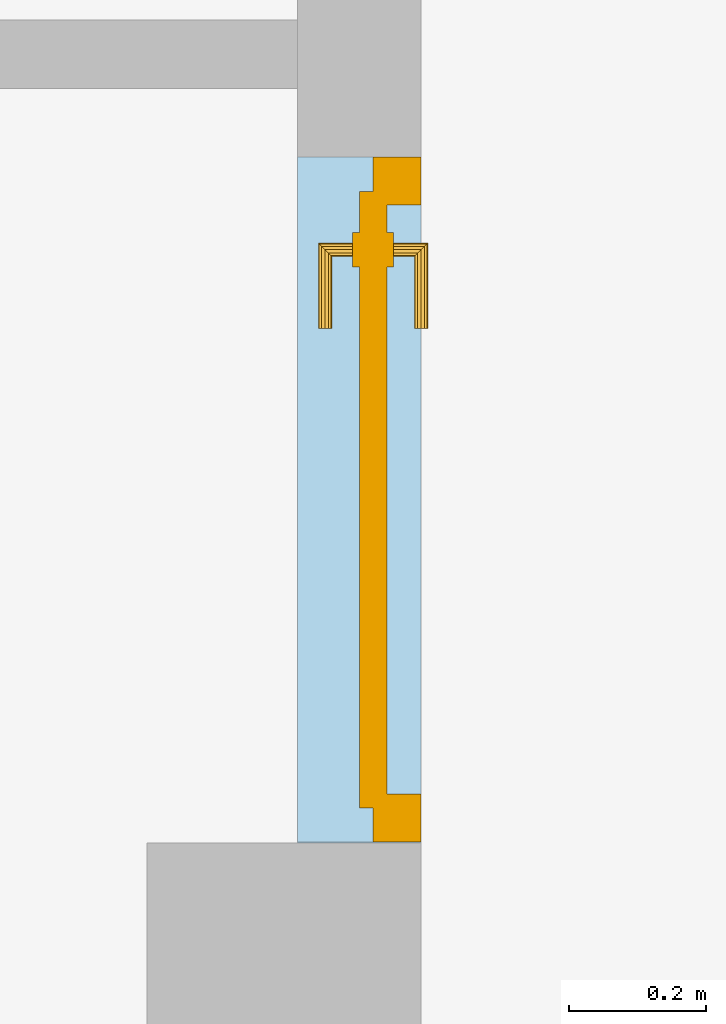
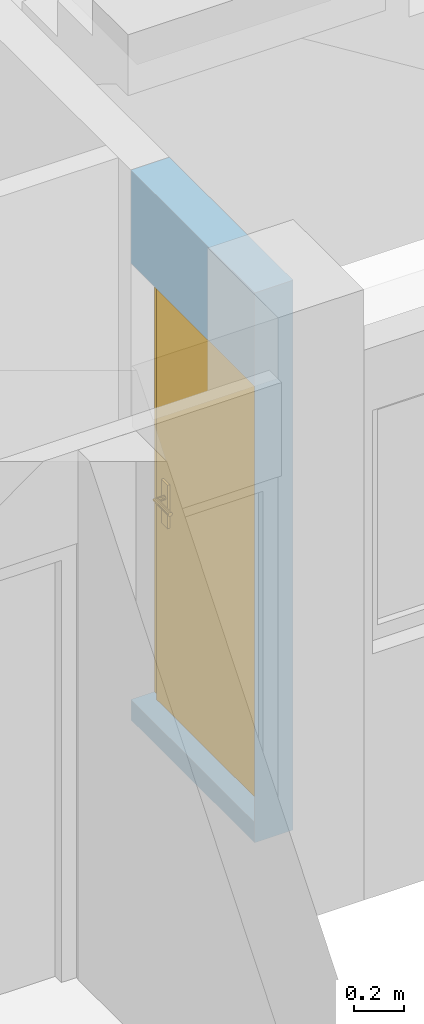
"""IFC4 building model written with IfcOpenShell, lengths in metres."""

from ifc_helpers import new_model, entity, si_unit, converted_unit, derived_unit, frame, frame_2d, origin, origin_with_axes, place, context, subcontext, project, spatial, polyline, rectangle, outline, extrude, faceted_brep, source, transform, mapped, material, layer, layer_set, layer_usage, element, fill, save


model = new_model("IFC4")

# Units and contexts
model_context = context("Model", 3, precision=1e-05, world=origin())
body_context = subcontext(model_context, "Body", "Model", "MODEL_VIEW")
ifc_project = project(units=[si_unit("LENGTHUNIT", "METRE"), si_unit("AREAUNIT", "SQUARE_METRE"), si_unit("VOLUMEUNIT", "CUBIC_METRE"), si_unit("MASSUNIT", "GRAM", prefix="KILO"), converted_unit("PLANEANGLEUNIT", "DEGREE", entity("IfcPlaneAngleMeasure", 0.0174532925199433), si_unit("PLANEANGLEUNIT", "RADIAN"), dimensions=[0, 0, 0, 0, 0, 0, 0]), derived_unit("THERMALTRANSMITTANCEUNIT", [(si_unit("POWERUNIT", "WATT"), 1), (si_unit("THERMODYNAMICTEMPERATUREUNIT", "KELVIN"), -1), (si_unit("LENGTHUNIT", "METRE"), -2)]), derived_unit("VOLUMETRICFLOWRATEUNIT", [(si_unit("LENGTHUNIT", "METRE"), 3), (converted_unit("TIMEUNIT", "hour", entity("IfcTimeMeasure", 3600.0), si_unit("TIMEUNIT", "SECOND"), dimensions=[0, 0, 1, 0, 0, 0, 0]), -1), (si_unit("LENGTHUNIT", "METRE"), -1)])], contexts=[model_context])

# Building, storeys
building_placement = place(None, origin())
building = spatial("IfcBuilding", under=ifc_project, at=building_placement, Name="HABITATGE PLURIFAMILIAR", CompositionType="ELEMENT")
storey_1_placement = place(building_placement, frame((0.0, 0.0, 12.27)))
storey_1 = spatial("IfcBuildingStorey", under=building, at=storey_1_placement, Name="PLANTA TERCERA", CompositionType="ELEMENT", Elevation=12.27)
storey_2_placement = place(storey_1_placement, frame((0.0, 0.0, 9.26)))
storey_2 = spatial("IfcBuildingStorey", under=storey_1, at=storey_2_placement, Name="NOU", CompositionType="PARTIAL")

# Wall, opening, door
ifc_material = material()
ifc_layer = layer(ifc_material, 0.18)
ifc_layer_set = layer_set([ifc_layer])
ifc_layer_usage = layer_usage(ifc_layer_set, "AXIS2", "POSITIVE", 0.0)
wall_placement = place(storey_2_placement, frame((410.826984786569, 24.7294598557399, -9.36), z_axis=(0.0, 0.0, 1.0), x_axis=(0.0, 1.0, 0.0)))
wall = element("IfcWall", 1, at=wall_placement, inside=storey_2, material=ifc_layer_usage, Name="Evans P3", context=body_context, shape_type="SweptSolid", body=[
    extrude(rectangle(XDim=0.999999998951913, YDim=0.18, at=frame_2d((0.499999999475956, 0.09), x_axis=(1.0, 0.0))), origin_with_axes(), (0.0, 0.0, 1.0), 2.71),
])
opening_placement = place(wall_placement, frame((0.000971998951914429, 0.0, 0.1), z_axis=(0.0, 1.0, 0.0), x_axis=(0.0, 0.0, 1.0)))
opening = element("IfcOpeningElement", 2, at=opening_placement, cuts=wall, Name="Vano porta P3", ObjectType="Opening", context=body_context, shape_type="SweptSolid", body=[
    extrude(outline(polyline([(2.15, 0.999027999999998), (2.15, 0.0), (0.0, 0.0), (0.0, 0.999027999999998), (2.15, 0.999027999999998)])), origin_with_axes(), (0.0, 0.0, 1.0), 0.18),
])
shared_shape = source(origin_with_axes(), body_context, "Body", "Brep", [
    faceted_brep([(0.999027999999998, 0.015, 2.15), (0.929027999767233, 0.015, 2.15), (0.929027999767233, 0.015, 0.0), (0.999027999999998, 0.015, 0.0), (0.999027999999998, -0.055, 0.0), (0.929027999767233, -0.055, 0.0), (0.929027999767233, -0.055, 2.15), (0.999027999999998, -0.055, 2.15)], [[[0, 1, 2, 3]], [[4, 5, 6, 7]], [[3, 4, 7, 0]], [[2, 5, 4, 3]], [[1, 6, 5, 2]], [[0, 7, 6, 1]]], orient=[[False], [False], [False], [False], [False], [False]]),
    faceted_brep([(0.0700000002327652, 0.015, 2.15), (0.0, 0.015, 2.15), (0.0, 0.015, 0.0), (0.0700000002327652, 0.015, 0.0), (0.0700000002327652, -0.055, 0.0), (0.0, -0.055, 0.0), (0.0, -0.055, 2.15), (0.0700000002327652, -0.055, 2.15)], [[[0, 1, 2, 3]], [[4, 5, 6, 7]], [[3, 4, 7, 0]], [[2, 5, 4, 3]], [[1, 6, 5, 2]], [[0, 7, 6, 1]]], orient=[[False], [False], [False], [False], [False], [False]]),
    faceted_brep([(0.929027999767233, 0.015, 2.15), (0.0700000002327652, 0.015, 2.15), (0.0700000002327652, 0.015, 2.08), (0.929027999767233, 0.015, 2.08), (0.929027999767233, -0.055, 2.08), (0.0700000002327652, -0.055, 2.08), (0.0700000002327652, -0.055, 2.15), (0.929027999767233, -0.055, 2.15)], [[[0, 1, 2, 3]], [[4, 5, 6, 7]], [[3, 4, 7, 0]], [[2, 5, 4, 3]], [[1, 6, 5, 2]], [[0, 7, 6, 1]]], orient=[[False], [False], [False], [False], [False], [False]]),
    faceted_brep([(0.949027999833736, 0.035, 2.1), (0.0500000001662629, 0.035, 2.1), (0.0500000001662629, 0.035, 0.0), (0.949027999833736, 0.035, 0.0), (0.949027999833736, -0.005, 0.0), (0.0500000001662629, -0.005, 0.0), (0.0500000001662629, -0.005, 2.1), (0.949027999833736, -0.005, 2.1)], [[[0, 1, 2, 3]], [[4, 5, 6, 7]], [[3, 4, 7, 0]], [[2, 5, 4, 3]], [[1, 6, 5, 2]], [[0, 7, 6, 1]]], orient=[[False], [False], [False], [False], [False], [False]]),
    faceted_brep([(0.889027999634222, -0.005, 1.125), (0.839027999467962, -0.005, 1.125), (0.839027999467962, -0.005, 0.91), (0.889027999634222, -0.005, 0.91), (0.889027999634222, -0.015, 0.91), (0.839027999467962, -0.015, 0.91), (0.839027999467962, -0.015, 1.125), (0.889027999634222, -0.015, 1.125)], [[[0, 1, 2, 3]], [[4, 5, 6, 7]], [[3, 4, 7, 0]], [[2, 5, 4, 3]], [[1, 6, 5, 2]], [[0, 7, 6, 1]]], orient=[[False], [False], [False], [False], [False], [False]]),
    faceted_brep([(0.864027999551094, -0.015, 1.06), (0.859027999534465, -0.015, 1.05866025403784), (0.855367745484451, -0.015, 1.055), (0.854027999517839, -0.015, 1.05), (0.855367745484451, -0.015, 1.045), (0.859027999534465, -0.015, 1.04133974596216), (0.864027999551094, -0.015, 1.04), (0.869027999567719, -0.015, 1.04133974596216), (0.872688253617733, -0.015, 1.045), (0.874027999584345, -0.015, 1.05), (0.872688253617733, -0.015, 1.055), (0.869027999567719, -0.015, 1.05866025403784), (0.869027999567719, -0.06, 1.05866025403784), (0.864027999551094, -0.055, 1.06), (0.872688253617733, -0.0636602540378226, 1.055), (0.874027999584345, -0.065, 1.05), (0.872688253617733, -0.0636602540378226, 1.045), (0.869027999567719, -0.06, 1.04133974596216), (0.864027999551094, -0.055, 1.04), (0.859027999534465, -0.05, 1.04133974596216), (0.855367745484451, -0.0463397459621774, 1.045), (0.854027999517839, -0.045, 1.05), (0.855367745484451, -0.0463397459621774, 1.055), (0.859027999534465, -0.05, 1.05866025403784), (0.749027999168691, -0.055, 1.06), (0.749027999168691, -0.06, 1.05866025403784), (0.749027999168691, -0.0636602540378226, 1.055), (0.749027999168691, -0.065, 1.05), (0.749027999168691, -0.0636602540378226, 1.045), (0.749027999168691, -0.06, 1.04133974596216), (0.749027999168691, -0.055, 1.04), (0.749027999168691, -0.05, 1.04133974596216), (0.749027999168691, -0.0463397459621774, 1.045), (0.749027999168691, -0.045, 1.05), (0.749027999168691, -0.0463397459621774, 1.055), (0.749027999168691, -0.05, 1.05866025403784)], [[[0, 1, 2, 3, 4, 5, 6, 7, 8, 9, 10, 11]], [[0, 11, 12, 13]], [[11, 10, 14, 12]], [[10, 9, 15, 14]], [[9, 8, 16, 15]], [[8, 7, 17, 16]], [[7, 6, 18, 17]], [[6, 5, 19, 18]], [[5, 4, 20, 19]], [[4, 3, 21, 20]], [[3, 2, 22, 21]], [[2, 1, 23, 22]], [[1, 0, 13, 23]], [[24, 25, 26, 27, 28, 29, 30, 31, 32, 33, 34, 35]], [[13, 12, 25, 24]], [[12, 14, 26, 25]], [[14, 15, 27, 26]], [[15, 16, 28, 27]], [[16, 17, 29, 28]], [[17, 18, 30, 29]], [[18, 19, 31, 30]], [[19, 20, 32, 31]], [[20, 21, 33, 32]], [[21, 22, 34, 33]], [[22, 23, 35, 34]], [[23, 13, 24, 35]]], orient=[[False], [False], [False], [False], [False], [False], [False], [False], [False], [False], [False], [False], [False], [False], [False], [False], [False], [False], [False], [False], [False], [False], [False], [False], [False], [False]]),
    faceted_brep([(0.889027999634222, 0.035, 1.125), (0.889027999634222, 0.035, 0.91), (0.839027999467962, 0.035, 0.91), (0.839027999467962, 0.035, 1.125), (0.889027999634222, 0.045, 0.91), (0.889027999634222, 0.045, 1.125), (0.839027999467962, 0.045, 1.125), (0.839027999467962, 0.045, 0.91)], [[[0, 1, 2, 3]], [[4, 5, 6, 7]], [[1, 0, 5, 4]], [[2, 1, 4, 7]], [[3, 2, 7, 6]], [[0, 3, 6, 5]]], orient=[[False], [False], [False], [False], [False], [False]]),
    faceted_brep([(0.864027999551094, 0.045, 1.06), (0.869027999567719, 0.045, 1.05866025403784), (0.872688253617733, 0.045, 1.055), (0.874027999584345, 0.045, 1.05), (0.872688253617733, 0.045, 1.045), (0.869027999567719, 0.045, 1.04133974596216), (0.864027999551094, 0.045, 1.04), (0.859027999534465, 0.045, 1.04133974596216), (0.855367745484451, 0.045, 1.045), (0.854027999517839, 0.045, 1.05), (0.855367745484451, 0.045, 1.055), (0.859027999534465, 0.045, 1.05866025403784), (0.864027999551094, 0.085, 1.06), (0.869027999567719, 0.09, 1.05866025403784), (0.872688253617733, 0.0936602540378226, 1.055), (0.874027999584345, 0.095, 1.05), (0.872688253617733, 0.0936602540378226, 1.045), (0.869027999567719, 0.09, 1.04133974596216), (0.864027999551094, 0.085, 1.04), (0.859027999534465, 0.08, 1.04133974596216), (0.855367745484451, 0.0763397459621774, 1.045), (0.854027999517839, 0.075, 1.05), (0.855367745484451, 0.0763397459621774, 1.055), (0.859027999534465, 0.08, 1.05866025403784), (0.749027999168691, 0.085, 1.06), (0.749027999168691, 0.08, 1.05866025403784), (0.749027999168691, 0.0763397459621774, 1.055), (0.749027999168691, 0.075, 1.05), (0.749027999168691, 0.0763397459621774, 1.045), (0.749027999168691, 0.08, 1.04133974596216), (0.749027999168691, 0.085, 1.04), (0.749027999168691, 0.09, 1.04133974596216), (0.749027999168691, 0.0936602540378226, 1.045), (0.749027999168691, 0.095, 1.05), (0.749027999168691, 0.0936602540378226, 1.055), (0.749027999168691, 0.09, 1.05866025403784)], [[[0, 1, 2, 3, 4, 5, 6, 7, 8, 9, 10, 11]], [[0, 12, 13, 1]], [[1, 13, 14, 2]], [[2, 14, 15, 3]], [[3, 15, 16, 4]], [[4, 16, 17, 5]], [[5, 17, 18, 6]], [[6, 18, 19, 7]], [[7, 19, 20, 8]], [[8, 20, 21, 9]], [[9, 21, 22, 10]], [[10, 22, 23, 11]], [[11, 23, 12, 0]], [[24, 25, 26, 27, 28, 29, 30, 31, 32, 33, 34, 35]], [[12, 24, 35, 13]], [[13, 35, 34, 14]], [[14, 34, 33, 15]], [[15, 33, 32, 16]], [[16, 32, 31, 17]], [[17, 31, 30, 18]], [[18, 30, 29, 19]], [[19, 29, 28, 20]], [[20, 28, 27, 21]], [[21, 27, 26, 22]], [[22, 26, 25, 23]], [[23, 25, 24, 12]]], orient=[[False], [False], [False], [False], [False], [False], [False], [False], [False], [False], [False], [False], [False], [False], [False], [False], [False], [False], [False], [False], [False], [False], [False], [False], [False], [False]]),
])
door_placement = place(opening_placement, frame((0.0, 0.0, 0.055), z_axis=(1.0, 0.0, 0.0), x_axis=(0.0, 1.0, 0.0)))
door = element("IfcDoor", 3, at=door_placement, inside=storey_2, Name="Porta P3", OperationType="USERDEFINED", OverallHeight=2.15, OverallWidth=0.99903, PredefinedType="DOOR", context=body_context, shape_type="MappedRepresentation", body=[
    mapped(shared_shape, transform((0.0, 0.0, 0.0), x_axis=(1.0, 0.0, 0.0), y_axis=(0.0, 1.0, 0.0), z_axis=(0.0, 0.0, 1.0), scale=1.0)),
])
fill(opening, door)

save(model, "model.ifc")
